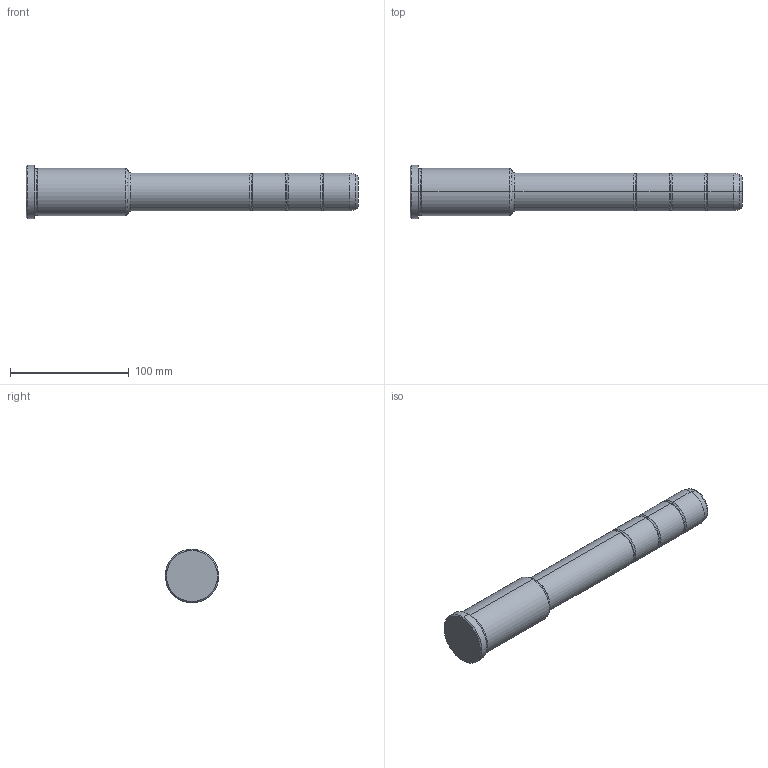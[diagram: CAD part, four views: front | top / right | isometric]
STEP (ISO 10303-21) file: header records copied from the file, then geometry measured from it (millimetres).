
FILE_DESCRIPTION(('CATIA V5 STEP Exchange'),'2;1');
FILE_NAME('C:\Users\Utente\Desktop\IO LAVORO\3D X SITO CF\X SITO\PLASTICA\351\351-32X86X280.stp','2021-09-10T12:23:12+00:00',('none'),('none'),'CATIA Version 5 Release 20 GA (IN-10)','CATIA V5 STEP AP203','none');
FILE_SCHEMA(('CONFIG_CONTROL_DESIGN'));
Length unit declared in the file: millimetre
Products named in the file (1): 351-32X86X280
Bounding box: 280 x 45 x 45 mm (x, y, z)
Volume: 265084.2 mm3; surface area: 33225.4 mm2
Topology: 1 solids, 1 shells, 42 faces, 118 edges, 80 vertices
Faces by surface type: torus 20, cylinder 12, cone 6, plane 4
Entity records: 1472 total; most frequent: CARTESIAN_POINT 353, ORIENTED_EDGE 236, DIRECTION 194, AXIS2_PLACEMENT_3D 135, EDGE_CURVE 118, CIRCLE 92, VERTEX_POINT 80, EDGE_LOOP 44
